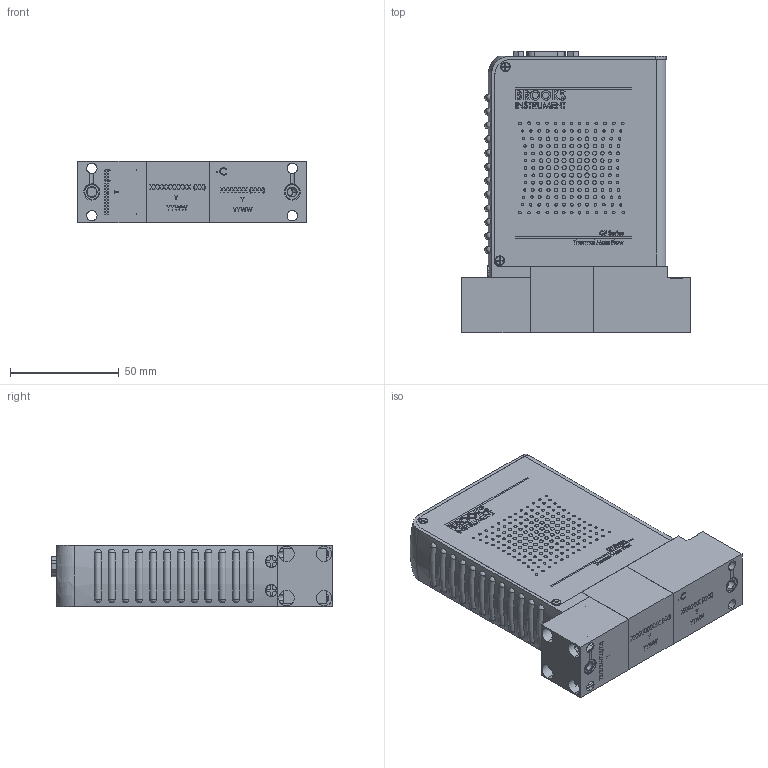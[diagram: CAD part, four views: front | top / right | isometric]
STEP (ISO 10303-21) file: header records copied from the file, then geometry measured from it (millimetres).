
FILE_DESCRIPTION (( 'STEP AP203' ), '1' );
FILE_NAME ('GF100-GF120-GF125-CX-G1.STEP', '2022-08-29T19:09:25', ( '' ), ( '' ), 'SwSTEP 2.0', 'SolidWorks 2020', '' );
FILE_SCHEMA (( 'CONFIG_CONTROL_DESIGN' ));
Products named in the file (1): GF100-GF120-GF125-CX-G1
Bounding box: 104.95 x 129.41 x 28.46 mm (x, y, z)
Volume: 60224.4 mm3; surface area: 79053.4 mm2
Topology: 65 solids, 65 shells, 3004 faces, 7638 edges, 5011 vertices
Faces by surface type: plane 1876, cylinder 635, bspline 289, cone 158, torus 40, sphere 6
Entity records: 107659 total; most frequent: CARTESIAN_POINT 35956, ORIENTED_EDGE 15212, DIRECTION 13750, EDGE_CURVE 7606, LINE 5292, VECTOR 5292, VERTEX_POINT 5005, AXIS2_PLACEMENT_3D 4229
